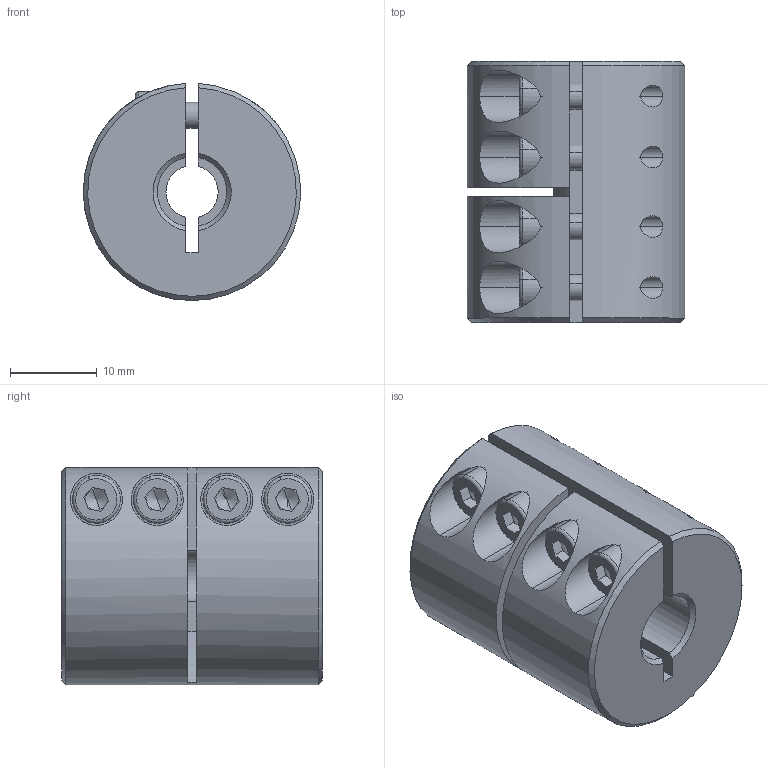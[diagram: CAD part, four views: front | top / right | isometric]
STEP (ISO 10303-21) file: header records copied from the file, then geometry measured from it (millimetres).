
FILE_DESCRIPTION (( 'STEP AP214' ), '1' );
FILE_NAME ('LL-B-D25L30-6-8½¨Ä£.STEP', '2022-07-21T03:09:33', ( '' ), ( '' ), 'SwSTEP 2.0', 'SolidWorks 2022', '' );
FILE_SCHEMA (( 'AUTOMOTIVE_DESIGN' ));
Length unit declared in the file: millimetre
Products named in the file (1): LL-B-D25L30-6-8膘耀
Bounding box: 24.99 x 30 x 24.98 mm (x, y, z)
Volume: 12370.8 mm3; surface area: 5915.9 mm2
Topology: 1 solids, 1 shells, 164 faces, 418 edges, 264 vertices
Faces by surface type: plane 83, cylinder 58, cone 15, torus 8
Entity records: 5402 total; most frequent: CARTESIAN_POINT 1363, DIRECTION 862, ORIENTED_EDGE 820, EDGE_CURVE 410, AXIS2_PLACEMENT_3D 331, VERTEX_POINT 264, VECTOR 200, LINE 200
